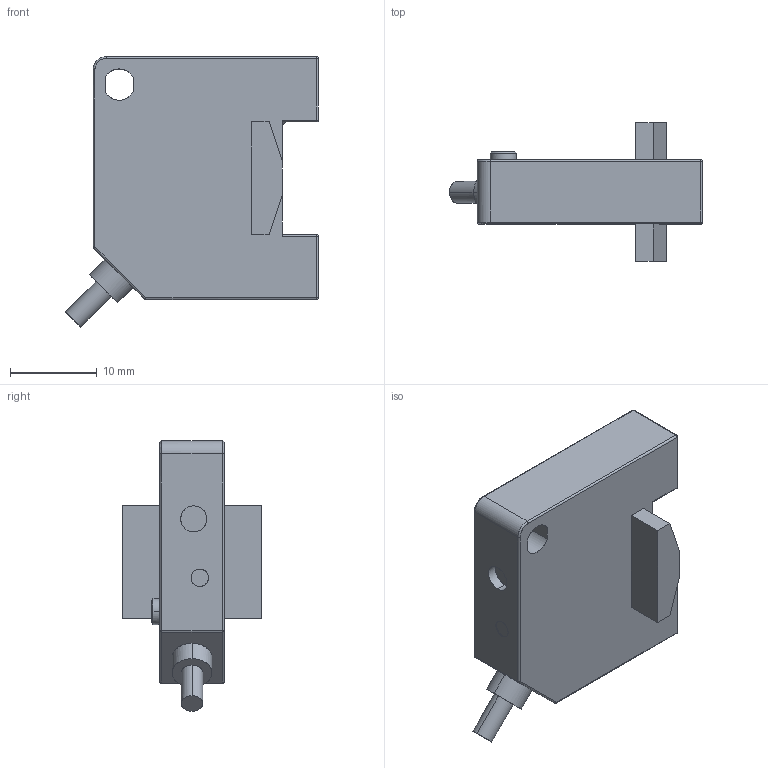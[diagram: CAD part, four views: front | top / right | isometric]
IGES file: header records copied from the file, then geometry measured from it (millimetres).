
Start section: Comment
Global section: file name: FFDK 16_.igs; native system:  By Spatial Corp.; preprocessor: XPlus GENERIC/IGES 3.0; author: Author; organization: Title; date: 20070122.112237; units: millimetre
Bounding box: 29.19 x 16 x 31.19 mm (x, y, z)
Surface area: 2541 mm2 (no closed solid volume)
Topology: 0 solids, 0 shells, 83 faces, 382 edges, 372 vertices
Faces by surface type: bspline 83
